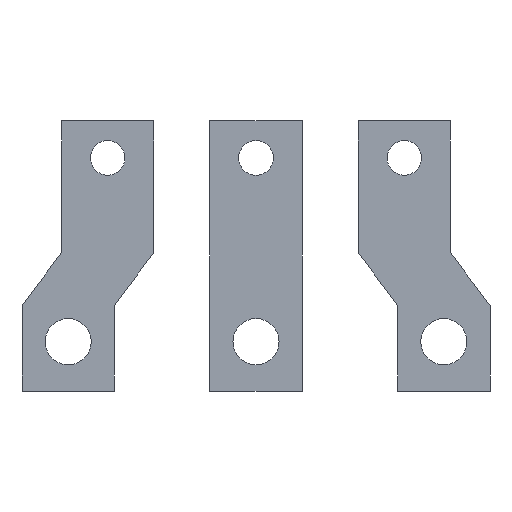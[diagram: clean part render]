
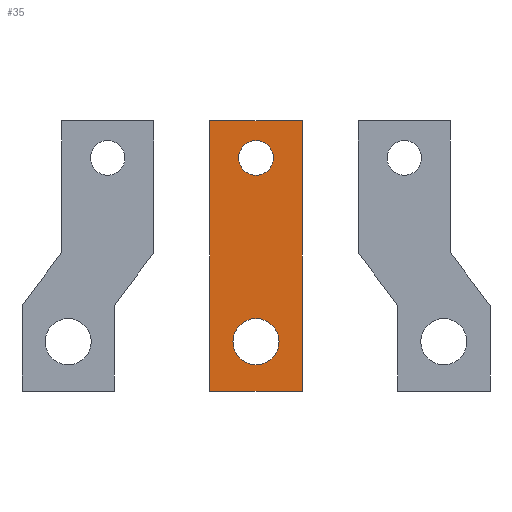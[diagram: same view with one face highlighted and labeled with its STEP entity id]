
A CAD part, front view. The second image highlights one B-rep face of the part: STEP entity #35.
In plain terms, the highlighted planar face has unit normal (0, -1, 0).
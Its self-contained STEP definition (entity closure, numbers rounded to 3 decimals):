
#3 = EDGE_CURVE ( 'NONE', #571, #294, #206, .T. ) ;
#7 = DIRECTION ( 'NONE',  ( 0., 0., 1. ) ) ;
#13 = DIRECTION ( 'NONE',  ( 0., 1., 0. ) ) ;
#16 = VECTOR ( 'NONE', #314, 1000. ) ;
#35 = ADVANCED_FACE ( 'NONE', ( #81, #527, #78 ), #329, .F. ) ;
#43 = ORIENTED_EDGE ( 'NONE', *, *, #462, .T. ) ;
#51 = AXIS2_PLACEMENT_3D ( 'NONE', #201, #774, #594 ) ;
#66 = VECTOR ( 'NONE', #603, 1000. ) ;
#78 = FACE_OUTER_BOUND ( 'NONE', #488, .T. ) ;
#81 = FACE_BOUND ( 'NONE', #642, .T. ) ;
#100 = ORIENTED_EDGE ( 'NONE', *, *, #620, .F. ) ;
#102 = VECTOR ( 'NONE', #708, 1000. ) ;
#112 = CARTESIAN_POINT ( 'NONE',  ( -25.404, 0., 35.357 ) ) ;
#115 = VERTEX_POINT ( 'NONE', #558 ) ;
#120 = VERTEX_POINT ( 'NONE', #494 ) ;
#123 = ORIENTED_EDGE ( 'NONE', *, *, #646, .F. ) ;
#125 = VERTEX_POINT ( 'NONE', #817 ) ;
#155 = VERTEX_POINT ( 'NONE', #413 ) ;
#191 = DIRECTION ( 'NONE',  ( 0., 1., 0. ) ) ;
#200 = CIRCLE ( 'NONE', #319, 5.25 ) ;
#201 = CARTESIAN_POINT ( 'NONE',  ( 0., 0., 0. ) ) ;
#206 = LINE ( 'NONE', #536, #66 ) ;
#213 = CIRCLE ( 'NONE', #684, 5.25 ) ;
#245 = ORIENTED_EDGE ( 'NONE', *, *, #452, .T. ) ;
#258 = CARTESIAN_POINT ( 'NONE',  ( 2.596, 0., -46.643 ) ) ;
#294 = VERTEX_POINT ( 'NONE', #595 ) ;
#298 = DIRECTION ( 'NONE',  ( 0., 0., -1. ) ) ;
#305 = AXIS2_PLACEMENT_3D ( 'NONE', #519, #191, #766 ) ;
#309 = EDGE_LOOP ( 'NONE', ( #43, #510 ) ) ;
#314 = DIRECTION ( 'NONE',  ( 0., 0., 1. ) ) ;
#319 = AXIS2_PLACEMENT_3D ( 'NONE', #601, #614, #7 ) ;
#329 = PLANE ( 'NONE',  #51 ) ;
#343 = DIRECTION ( 'NONE',  ( 0., 1., 0. ) ) ;
#358 = CIRCLE ( 'NONE', #305, 7. ) ;
#375 = ORIENTED_EDGE ( 'NONE', *, *, #611, .T. ) ;
#405 = DIRECTION ( 'NONE',  ( 0., 0., 1. ) ) ;
#413 = CARTESIAN_POINT ( 'NONE',  ( -11.404, 0., 29.357 ) ) ;
#430 = CIRCLE ( 'NONE', #610, 7. ) ;
#431 = VERTEX_POINT ( 'NONE', #550 ) ;
#432 = EDGE_CURVE ( 'NONE', #155, #431, #213, .T. ) ;
#452 = EDGE_CURVE ( 'NONE', #115, #120, #430, .T. ) ;
#462 = EDGE_CURVE ( 'NONE', #431, #155, #200, .T. ) ;
#481 = CARTESIAN_POINT ( 'NONE',  ( -11.404, 0., -31.643 ) ) ;
#488 = EDGE_LOOP ( 'NONE', ( #100, #690, #553, #123 ) ) ;
#494 = CARTESIAN_POINT ( 'NONE',  ( -11.404, 0., -38.643 ) ) ;
#498 = VECTOR ( 'NONE', #298, 1000. ) ;
#510 = ORIENTED_EDGE ( 'NONE', *, *, #432, .T. ) ;
#511 = LINE ( 'NONE', #577, #16 ) ;
#519 = CARTESIAN_POINT ( 'NONE',  ( -11.404, 0., -31.643 ) ) ;
#527 = FACE_BOUND ( 'NONE', #309, .T. ) ;
#536 = CARTESIAN_POINT ( 'NONE',  ( 0., 0., 35.357 ) ) ;
#550 = CARTESIAN_POINT ( 'NONE',  ( -11.404, 0., 18.857 ) ) ;
#552 = EDGE_CURVE ( 'NONE', #294, #613, #743, .T. ) ;
#553 = ORIENTED_EDGE ( 'NONE', *, *, #3, .F. ) ;
#558 = CARTESIAN_POINT ( 'NONE',  ( -11.404, 0., -24.643 ) ) ;
#571 = VERTEX_POINT ( 'NONE', #112 ) ;
#577 = CARTESIAN_POINT ( 'NONE',  ( -25.404, 0., 0. ) ) ;
#586 = CARTESIAN_POINT ( 'NONE',  ( 0., 0., -46.643 ) ) ;
#594 = DIRECTION ( 'NONE',  ( 0., 0., 1. ) ) ;
#595 = CARTESIAN_POINT ( 'NONE',  ( 2.596, 0., 35.357 ) ) ;
#601 = CARTESIAN_POINT ( 'NONE',  ( -11.404, 0., 24.107 ) ) ;
#603 = DIRECTION ( 'NONE',  ( 1., 0., 0. ) ) ;
#610 = AXIS2_PLACEMENT_3D ( 'NONE', #481, #343, #726 ) ;
#611 = EDGE_CURVE ( 'NONE', #120, #115, #358, .T. ) ;
#613 = VERTEX_POINT ( 'NONE', #258 ) ;
#614 = DIRECTION ( 'NONE',  ( 0., 1., 0. ) ) ;
#620 = EDGE_CURVE ( 'NONE', #613, #125, #844, .T. ) ;
#642 = EDGE_LOOP ( 'NONE', ( #375, #245 ) ) ;
#646 = EDGE_CURVE ( 'NONE', #125, #571, #511, .T. ) ;
#668 = CARTESIAN_POINT ( 'NONE',  ( -11.404, 0., 24.107 ) ) ;
#684 = AXIS2_PLACEMENT_3D ( 'NONE', #668, #13, #405 ) ;
#690 = ORIENTED_EDGE ( 'NONE', *, *, #552, .F. ) ;
#708 = DIRECTION ( 'NONE',  ( -1., 0., 0. ) ) ;
#726 = DIRECTION ( 'NONE',  ( 0., 0., 1. ) ) ;
#743 = LINE ( 'NONE', #746, #498 ) ;
#746 = CARTESIAN_POINT ( 'NONE',  ( 2.596, 0., 0. ) ) ;
#766 = DIRECTION ( 'NONE',  ( 0., 0., 1. ) ) ;
#774 = DIRECTION ( 'NONE',  ( 0., 1., 0. ) ) ;
#817 = CARTESIAN_POINT ( 'NONE',  ( -25.404, 0., -46.643 ) ) ;
#844 = LINE ( 'NONE', #586, #102 ) ;
